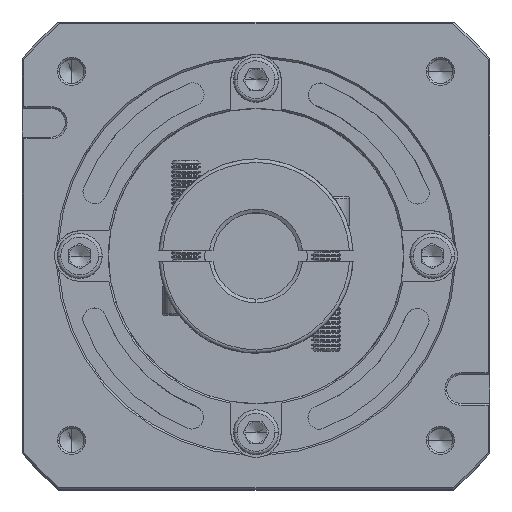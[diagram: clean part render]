
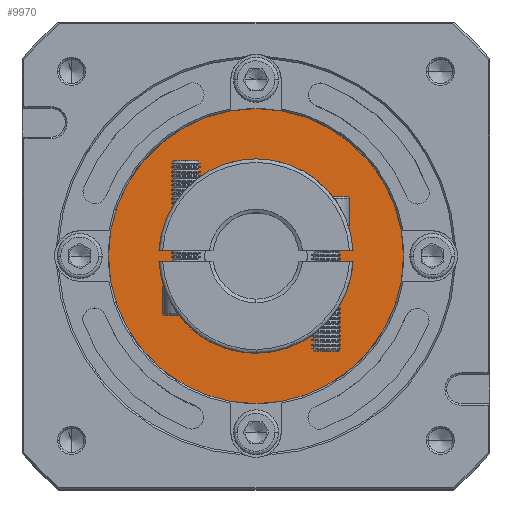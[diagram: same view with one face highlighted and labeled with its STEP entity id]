
A CAD part, top view. The second image highlights one B-rep face of the part: STEP entity #9970.
In plain terms, the highlighted planar face has unit normal (0, 0, 1).
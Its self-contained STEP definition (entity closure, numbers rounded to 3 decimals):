
#1142 = CARTESIAN_POINT ( 'NONE',  ( 107.579, 48.833, -30.666 ) ) ;
#1804 = DIRECTION ( 'NONE',  ( 0., 0., -1. ) ) ;
#1833 = AXIS2_PLACEMENT_3D ( 'NONE', #3123, #1804, #55010 ) ;
#3123 = CARTESIAN_POINT ( 'NONE',  ( 66.579, 48.833, -30.666 ) ) ;
#5986 = CARTESIAN_POINT ( 'NONE',  ( 66.579, 48.833, -30.666 ) ) ;
#9970 = ADVANCED_FACE ( 'NONE', ( #28946, #130983 ), #65223, .T. ) ;
#22690 = AXIS2_PLACEMENT_3D ( 'NONE', #131740, #132193, #120679 ) ;
#27303 = AXIS2_PLACEMENT_3D ( 'NONE', #69625, #110144, #99137 ) ;
#27726 = EDGE_CURVE ( 'NONE', #75683, #103256, #55479, .T. ) ;
#28946 = FACE_OUTER_BOUND ( 'NONE', #112540, .T. ) ;
#32011 = CARTESIAN_POINT ( 'NONE',  ( 86.579, 48.833, -30.666 ) ) ;
#33333 = EDGE_CURVE ( 'NONE', #61008, #132989, #102369, .T. ) ;
#50269 = EDGE_CURVE ( 'NONE', #132989, #61008, #80020, .T. ) ;
#50452 = CARTESIAN_POINT ( 'NONE',  ( 46.579, 48.833, -30.666 ) ) ;
#54371 = DIRECTION ( 'NONE',  ( 0., 0., 1. ) ) ;
#55010 = DIRECTION ( 'NONE',  ( 1., 0., 0. ) ) ;
#55479 = CIRCLE ( 'NONE', #27303, 41. ) ;
#55804 = ORIENTED_EDGE ( 'NONE', *, *, #33333, .T. ) ;
#59979 = ORIENTED_EDGE ( 'NONE', *, *, #27726, .T. ) ;
#61008 = VERTEX_POINT ( 'NONE', #32011 ) ;
#63591 = DIRECTION ( 'NONE',  ( 1., 0., 0. ) ) ;
#65223 = PLANE ( 'NONE',  #129028 ) ;
#69306 = DIRECTION ( 'NONE',  ( 0., 0., 1. ) ) ;
#69625 = CARTESIAN_POINT ( 'NONE',  ( 66.579, 48.833, -30.666 ) ) ;
#75683 = VERTEX_POINT ( 'NONE', #129548 ) ;
#80020 = CIRCLE ( 'NONE', #22690, 20. ) ;
#87217 = EDGE_LOOP ( 'NONE', ( #55804, #95938 ) ) ;
#94864 = CARTESIAN_POINT ( 'NONE',  ( 66.579, 48.833, -30.666 ) ) ;
#95938 = ORIENTED_EDGE ( 'NONE', *, *, #50269, .T. ) ;
#99137 = DIRECTION ( 'NONE',  ( 1., 0., 0. ) ) ;
#102369 = CIRCLE ( 'NONE', #1833, 20. ) ;
#102441 = DIRECTION ( 'NONE',  ( 1., 0., 0. ) ) ;
#103256 = VERTEX_POINT ( 'NONE', #1142 ) ;
#103348 = EDGE_CURVE ( 'NONE', #103256, #75683, #130568, .T. ) ;
#110144 = DIRECTION ( 'NONE',  ( 0., 0., 1. ) ) ;
#111982 = ORIENTED_EDGE ( 'NONE', *, *, #103348, .T. ) ;
#112540 = EDGE_LOOP ( 'NONE', ( #111982, #59979 ) ) ;
#119493 = AXIS2_PLACEMENT_3D ( 'NONE', #94864, #54371, #63591 ) ;
#120679 = DIRECTION ( 'NONE',  ( 1., 0., 0. ) ) ;
#129028 = AXIS2_PLACEMENT_3D ( 'NONE', #5986, #69306, #102441 ) ;
#129548 = CARTESIAN_POINT ( 'NONE',  ( 25.579, 48.833, -30.666 ) ) ;
#130568 = CIRCLE ( 'NONE', #119493, 41. ) ;
#130983 = FACE_BOUND ( 'NONE', #87217, .T. ) ;
#131740 = CARTESIAN_POINT ( 'NONE',  ( 66.579, 48.833, -30.666 ) ) ;
#132193 = DIRECTION ( 'NONE',  ( 0., 0., -1. ) ) ;
#132989 = VERTEX_POINT ( 'NONE', #50452 ) ;
